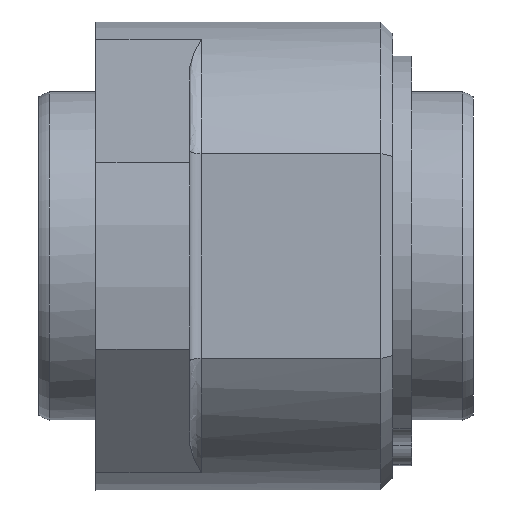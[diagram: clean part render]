
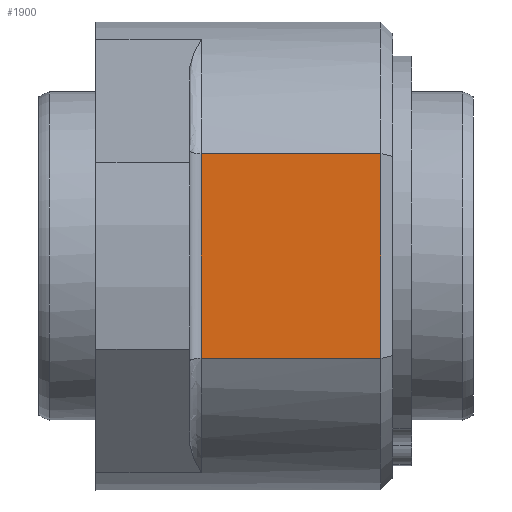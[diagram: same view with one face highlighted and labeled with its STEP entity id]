
A CAD part, front view. The second image highlights one B-rep face of the part: STEP entity #1900.
In plain terms, the highlighted planar face has unit normal (0, -1, 0).
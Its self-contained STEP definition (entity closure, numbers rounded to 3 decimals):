
#1672=CARTESIAN_POINT('',(9.0,-18.0,8.718));
#1673=VERTEX_POINT('',#1672);
#1770=CARTESIAN_POINT('',(9.0,-18.0,-8.718));
#1771=VERTEX_POINT('',#1770);
#1804=CARTESIAN_POINT('',(9.0,-18.0,-8.718));
#1805=DIRECTION('',(0.0,0.0,1.0));
#1806=VECTOR('',#1805,17.436);
#1807=LINE('',#1804,#1806);
#1808=EDGE_CURVE('',#1771,#1673,#1807,.T.);
#1850=CARTESIAN_POINT('',(24.3,-18.0,8.718));
#1851=VERTEX_POINT('',#1850);
#1852=CARTESIAN_POINT('',(9.0,-18.0,8.718));
#1853=DIRECTION('',(1.0,0.0,0.0));
#1854=VECTOR('',#1853,15.3);
#1855=LINE('',#1852,#1854);
#1856=EDGE_CURVE('',#1673,#1851,#1855,.T.);
#1877=CARTESIAN_POINT('',(0.0,-18.0,-8.718));
#1878=DIRECTION('',(0.0,-1.0,0.0));
#1879=DIRECTION('',(0.0,0.0,-1.0));
#1880=AXIS2_PLACEMENT_3D('',#1877,#1878,#1879);
#1881=PLANE('',#1880);
#1882=ORIENTED_EDGE('',*,*,#1808,.F.);
#1883=CARTESIAN_POINT('',(24.3,-18.0,-8.718));
#1884=VERTEX_POINT('',#1883);
#1885=CARTESIAN_POINT('',(9.0,-18.0,-8.718));
#1886=DIRECTION('',(1.0,0.0,0.0));
#1887=VECTOR('',#1886,15.3);
#1888=LINE('',#1885,#1887);
#1889=EDGE_CURVE('',#1771,#1884,#1888,.T.);
#1890=ORIENTED_EDGE('',*,*,#1889,.T.);
#1891=CARTESIAN_POINT('',(24.3,-18.0,8.718));
#1892=DIRECTION('',(0.0,0.0,-1.0));
#1893=VECTOR('',#1892,17.436);
#1894=LINE('',#1891,#1893);
#1895=EDGE_CURVE('',#1851,#1884,#1894,.T.);
#1896=ORIENTED_EDGE('',*,*,#1895,.F.);
#1897=ORIENTED_EDGE('',*,*,#1856,.F.);
#1898=EDGE_LOOP('',(#1882,#1890,#1896,#1897));
#1899=FACE_OUTER_BOUND('',#1898,.T.);
#1900=ADVANCED_FACE('',(#1899),#1881,.T.);
